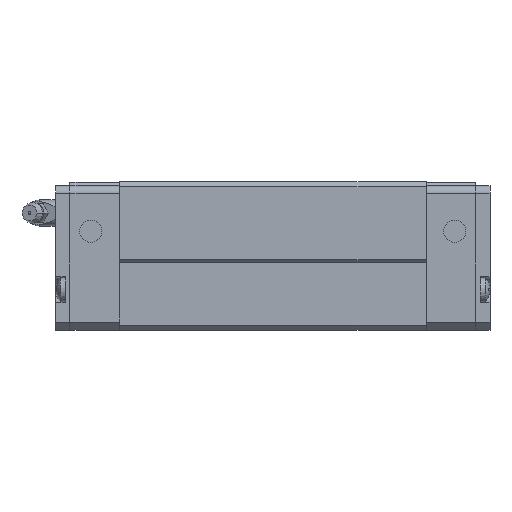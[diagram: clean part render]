
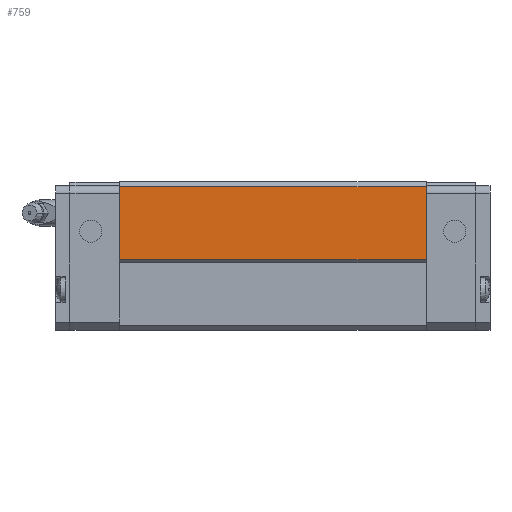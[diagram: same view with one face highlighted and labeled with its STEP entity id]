
A CAD part, front view. The second image highlights one B-rep face of the part: STEP entity #759.
In plain terms, the highlighted planar face has unit normal (0, -1, 0).
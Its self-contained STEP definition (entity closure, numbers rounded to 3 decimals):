
#698=CARTESIAN_POINT('POINT44',(142.2,-50.,
   27.));
#699=VERTEX_POINT('VERTEX44',#698);
#706=CARTESIAN_POINT('POINT45',(24.5,-50.,
   27.));
#707=VERTEX_POINT('VERTEX45',#706);
#708=CARTESIAN_POINT('POS73',(24.5,-50.,
   27.));
#709=DIRECTION('DIR108',(1.,0.,0.));
#710=VECTOR('VEC38',#709,1.);
#711=LINE('STRAIGHT38',#708,#710);
#712=EDGE_CURVE('EDGE70',#707,#699,#711,.T.);
#729=CARTESIAN_POINT('POINT46',(142.2,-50.,
   55.05));
#730=VERTEX_POINT('VERTEX46',#729);
#731=CARTESIAN_POINT('POS76',(142.2,-50.,
   27.));
#732=DIRECTION('DIR112',(0.,0.,1.));
#733=VECTOR('VEC40',#732,1.);
#734=LINE('STRAIGHT40',#731,#733);
#735=EDGE_CURVE('EDGE72',#699,#730,#734,.T.);
#736=ORIENTED_EDGE('COEDGE127',*,*,#735,.T.);
#737=CARTESIAN_POINT('POINT47',(24.5,-50.,
   55.05));
#738=VERTEX_POINT('VERTEX47',#737);
#739=CARTESIAN_POINT('POS77',(24.5,-50.,
   55.05));
#740=DIRECTION('DIR113',(1.,0.,0.));
#741=VECTOR('VEC41',#740,1.);
#742=LINE('STRAIGHT41',#739,#741);
#743=EDGE_CURVE('EDGE73',#738,#730,#742,.T.);
#744=ORIENTED_EDGE('COEDGE128',*,*,#743,.F.);
#745=CARTESIAN_POINT('POS78',(24.5,-50.,
   27.));
#746=DIRECTION('DIR114',(0.,0.,1.));
#747=VECTOR('VEC42',#746,1.);
#748=LINE('STRAIGHT42',#745,#747);
#749=EDGE_CURVE('EDGE74',#707,#738,#748,.T.);
#750=ORIENTED_EDGE('COEDGE129',*,*,#749,.F.);
#751=ORIENTED_EDGE('COEDGE130',*,*,#712,.T.);
#752=EDGE_LOOP('NONE',(#736,#744,#750,#751));
#753=FACE_BOUND('LOOP1',#752,.T.);
#754=CARTESIAN_POINT('POS79',(24.5,-50.,
   27.));
#755=DIRECTION('DIR115',(0.,-1.,0.));
#756=DIRECTION('DIR116',(1.,0.,0.));
#757=AXIS2_PLACEMENT_3D('AXIS37',#754,#755,#756);
#758=PLANE('PLANE8',#757);
#759=ADVANCED_FACE('FACE34',(#753),#758,.T.);
